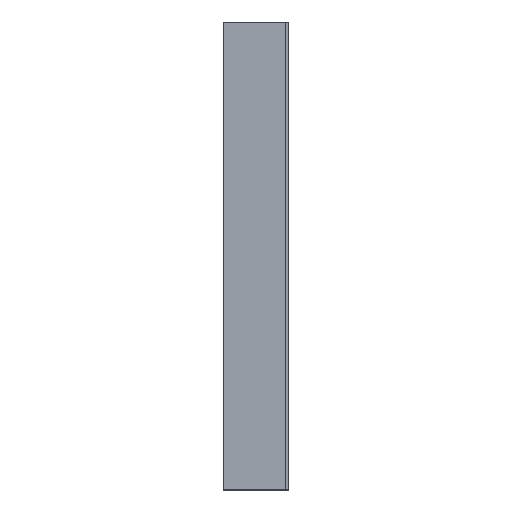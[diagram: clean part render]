
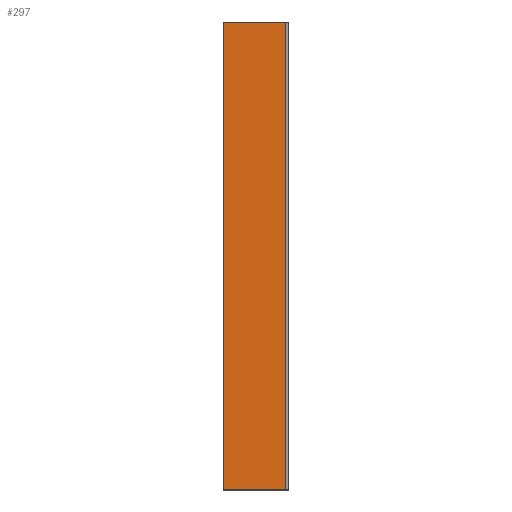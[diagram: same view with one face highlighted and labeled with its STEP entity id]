
A CAD part, left-side view. The second image highlights one B-rep face of the part: STEP entity #297.
In plain terms, the highlighted planar face has unit normal (-1, 0, 0).
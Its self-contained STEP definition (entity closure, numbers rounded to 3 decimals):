
#7 = ORIENTED_EDGE ( 'NONE', *, *, #360, .F. ) ;
#23 = VECTOR ( 'NONE', #168, 1000. ) ;
#26 = LINE ( 'NONE', #170, #23 ) ;
#28 = ORIENTED_EDGE ( 'NONE', *, *, #359, .T. ) ;
#30 = VECTOR ( 'NONE', #177, 1000. ) ;
#32 = VECTOR ( 'NONE', #180, 1000. ) ;
#33 = LINE ( 'NONE', #178, #30 ) ;
#41 = VERTEX_POINT ( 'NONE', #279 ) ;
#43 = LINE ( 'NONE', #197, #32 ) ;
#58 = VECTOR ( 'NONE', #217, 1000. ) ;
#61 = LINE ( 'NONE', #219, #58 ) ;
#71 = VERTEX_POINT ( 'NONE', #286 ) ;
#77 = ORIENTED_EDGE ( 'NONE', *, *, #344, .T. ) ;
#109 = FACE_OUTER_BOUND ( 'NONE', #124, .T. ) ;
#115 = VERTEX_POINT ( 'NONE', #235 ) ;
#119 = VERTEX_POINT ( 'NONE', #229 ) ;
#124 = EDGE_LOOP ( 'NONE', ( #28, #7, #139, #77 ) ) ;
#139 = ORIENTED_EDGE ( 'NONE', *, *, #363, .F. ) ;
#162 = DIRECTION ( 'NONE',  ( 1., 0., 0. ) ) ;
#168 = DIRECTION ( 'NONE',  ( 0., 0., 1. ) ) ;
#170 = CARTESIAN_POINT ( 'NONE',  ( 0., 4., -15. ) ) ;
#177 = DIRECTION ( 'NONE',  ( 0., -1., 0. ) ) ;
#178 = CARTESIAN_POINT ( 'NONE',  ( 0., 4., 15. ) ) ;
#179 = CARTESIAN_POINT ( 'NONE',  ( 0., 4., -15. ) ) ;
#180 = DIRECTION ( 'NONE',  ( 0., 0., 1. ) ) ;
#183 = PLANE ( 'NONE',  #343 ) ;
#197 = CARTESIAN_POINT ( 'NONE',  ( 0., 0., -15. ) ) ;
#217 = DIRECTION ( 'NONE',  ( 0., -1., 0. ) ) ;
#219 = CARTESIAN_POINT ( 'NONE',  ( 0., 4., -15. ) ) ;
#229 = CARTESIAN_POINT ( 'NONE',  ( 0., 4., -15. ) ) ;
#235 = CARTESIAN_POINT ( 'NONE',  ( 0., 0., 15. ) ) ;
#252 = DIRECTION ( 'NONE',  ( 0., 0., -1. ) ) ;
#279 = CARTESIAN_POINT ( 'NONE',  ( 0., 4., 15. ) ) ;
#286 = CARTESIAN_POINT ( 'NONE',  ( 0., 0., -15. ) ) ;
#297 = ADVANCED_FACE ( 'NONE', ( #109 ), #183, .F. ) ;
#343 = AXIS2_PLACEMENT_3D ( 'NONE', #179, #162, #252 ) ;
#344 = EDGE_CURVE ( 'NONE', #119, #71, #61, .T. ) ;
#359 = EDGE_CURVE ( 'NONE', #71, #115, #43, .T. ) ;
#360 = EDGE_CURVE ( 'NONE', #41, #115, #33, .T. ) ;
#363 = EDGE_CURVE ( 'NONE', #119, #41, #26, .T. ) ;
